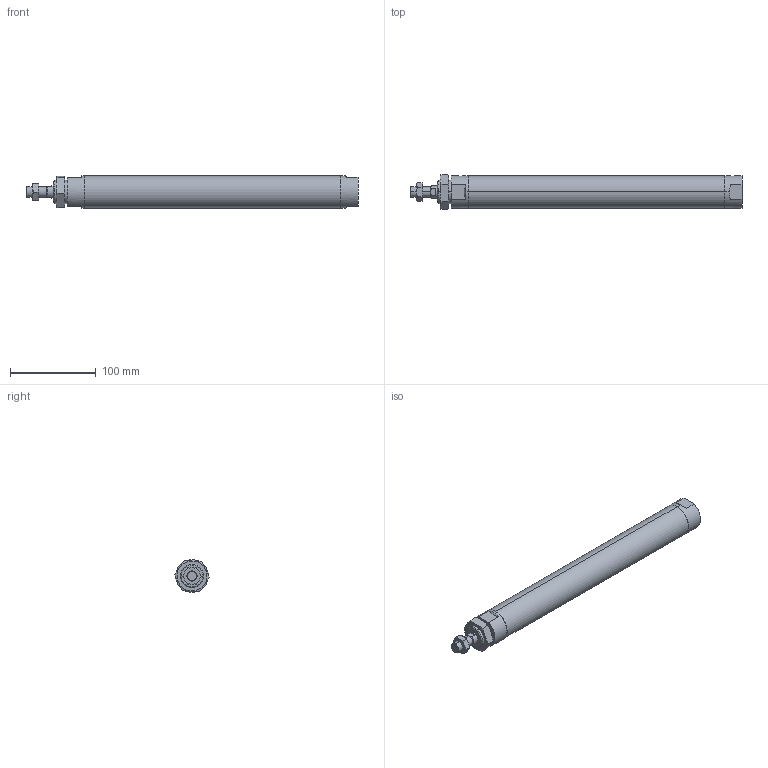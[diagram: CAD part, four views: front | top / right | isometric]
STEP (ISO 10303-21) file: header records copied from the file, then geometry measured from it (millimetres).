
FILE_DESCRIPTION (( 'STEP AP203' ), '1' );
FILE_NAME ('JGND2-32-250-N.STEP', '2016-08-04T03:02:17', ( '' ), ( '' ), 'SwSTEP 2.0', 'SolidWorks 2014', '' );
FILE_SCHEMA (( 'CONFIG_CONTROL_DESIGN' ));
Length unit declared in the file: millimetre
Products named in the file (4): J#2-32-250(P); JGND2-32-250-N
Assembly tree (3 placements, depth 2):
  JGND2-32-250-N
    J#2-32-250(P)
    (unnamed)
    (unnamed)
Bounding box: 387 x 40.33 x 38 mm (x, y, z)
Volume: 393372.4 mm3; surface area: 50247 mm2
Topology: 3 solids, 3 shells, 89 faces, 200 edges, 119 vertices
Faces by surface type: plane 32, torus 24, cylinder 20, cone 13
Entity records: 3321 total; most frequent: CARTESIAN_POINT 1017, DIRECTION 395, ORIENTED_EDGE 392, EDGE_CURVE 196, AXIS2_PLACEMENT_3D 167, VERTEX_POINT 119, EDGE_LOOP 99, ADVANCED_FACE 89
